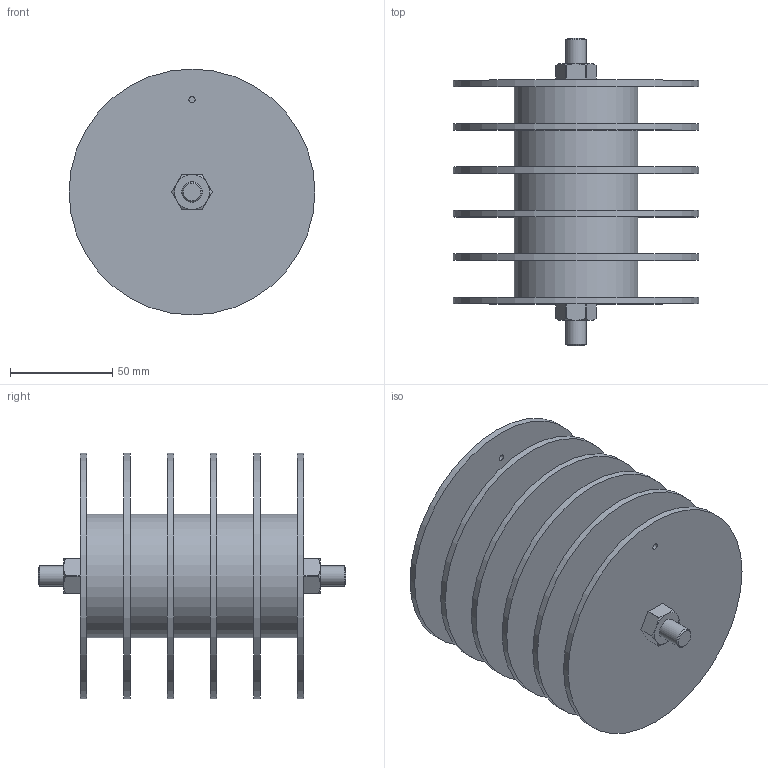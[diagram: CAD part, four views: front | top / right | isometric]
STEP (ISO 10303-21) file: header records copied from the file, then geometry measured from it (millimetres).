
FILE_DESCRIPTION(/* description */ (''),/* implementation_level */ '2;1');
FILE_NAME(/* name */ 'MGR-6.step',/* time_stamp */ '2023-06-28T15:41:47+09:00',/* author */ (''),/* organization */ (''),/* preprocessor_version */ 'ST-DEVELOPER v19.2',/* originating_system */ 'Autodesk Translation Framework v12.6.0.85',/* authorisation */ '');
FILE_SCHEMA (('AUTOMOTIVE_DESIGN { 1 0 10303 214 3 1 1 }'));
Length unit declared in the file: millimetre
Products named in the file (4): MGR-6_16465-1; M10x150L; LBNR10; LBNR10 v1(ミラー)
Assembly tree (3 placements, depth 2):
  MGR-6_16465-1
    M10x150L
    LBNR10
    LBNR10 v1(ミラー)
Bounding box: 120 x 150 x 120 mm (x, y, z)
Volume: 480867.7 mm3; surface area: 141618.1 mm2
Topology: 4 solids, 4 shells, 77 faces, 161 edges, 102 vertices
Faces by surface type: plane 30, cylinder 29, cone 18
Full cylindrical faces by diameter (mm): 3 x2, 8.376 x2, 9.85 x1, 10.5 x1, 60.5 x5, 120 x6
Entity records: 2200 total; most frequent: CARTESIAN_POINT 395, DIRECTION 383, ORIENTED_EDGE 322, AXIS2_PLACEMENT_3D 162, EDGE_CURVE 161, VERTEX_POINT 102, EDGE_LOOP 97, CIRCLE 78
